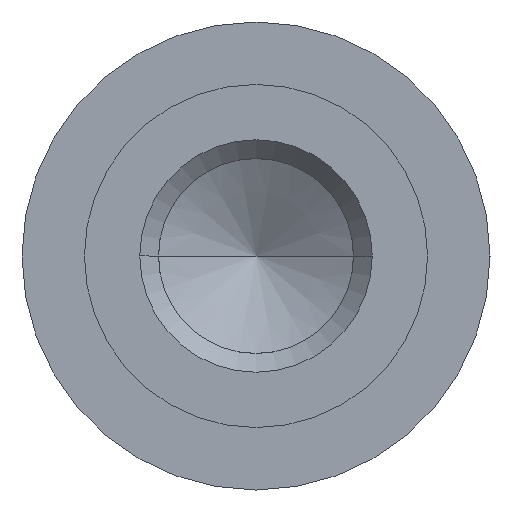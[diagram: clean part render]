
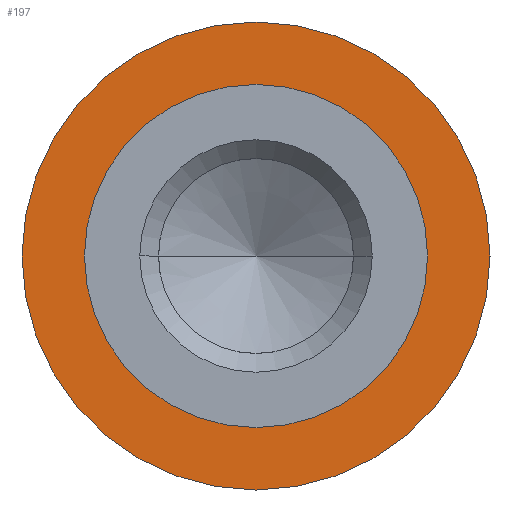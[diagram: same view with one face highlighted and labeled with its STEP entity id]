
A CAD part, left-side view. The second image highlights one B-rep face of the part: STEP entity #197.
In plain terms, the highlighted planar face has unit normal (-1, 0, 0).
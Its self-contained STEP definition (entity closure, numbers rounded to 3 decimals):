
#42 = DIRECTION ( 'NONE',  ( -1., 0., 0. ) ) ;
#127 = FACE_BOUND ( 'NONE', #260, .T. ) ;
#139 = DIRECTION ( 'NONE',  ( 0., 0., 1. ) ) ;
#151 = ORIENTED_EDGE ( 'NONE', *, *, #209, .T. ) ;
#157 = CARTESIAN_POINT ( 'NONE',  ( -3.5, 0., 2.2 ) ) ;
#195 = CARTESIAN_POINT ( 'NONE',  ( -3.5, 0., 0. ) ) ;
#197 = ADVANCED_FACE ( 'NONE', ( #127, #482 ), #248, .F. ) ;
#208 = VERTEX_POINT ( 'NONE', #320 ) ;
#209 = EDGE_CURVE ( 'NONE', #208, #691, #658, .T. ) ;
#210 = DIRECTION ( 'NONE',  ( 0., 0., 1. ) ) ;
#248 = PLANE ( 'NONE',  #442 ) ;
#255 = CARTESIAN_POINT ( 'NONE',  ( -3.5, 0., 0. ) ) ;
#260 = EDGE_LOOP ( 'NONE', ( #599, #759 ) ) ;
#268 = EDGE_CURVE ( 'NONE', #327, #427, #719, .T. ) ;
#302 = CARTESIAN_POINT ( 'NONE',  ( -3.5, 0., 3. ) ) ;
#316 = DIRECTION ( 'NONE',  ( 0., 0., 1. ) ) ;
#320 = CARTESIAN_POINT ( 'NONE',  ( -3.5, 0., -3. ) ) ;
#327 = VERTEX_POINT ( 'NONE', #157 ) ;
#388 = DIRECTION ( 'NONE',  ( 1., 0., 0. ) ) ;
#391 = AXIS2_PLACEMENT_3D ( 'NONE', #393, #496, #210 ) ;
#393 = CARTESIAN_POINT ( 'NONE',  ( -3.5, 0., 0. ) ) ;
#427 = VERTEX_POINT ( 'NONE', #662 ) ;
#438 = DIRECTION ( 'NONE',  ( -1., 0., 0. ) ) ;
#442 = AXIS2_PLACEMENT_3D ( 'NONE', #565, #388, #507 ) ;
#480 = AXIS2_PLACEMENT_3D ( 'NONE', #255, #610, #316 ) ;
#482 = FACE_OUTER_BOUND ( 'NONE', #549, .T. ) ;
#496 = DIRECTION ( 'NONE',  ( -1., 0., 0. ) ) ;
#507 = DIRECTION ( 'NONE',  ( 0., 0., -1. ) ) ;
#520 = ORIENTED_EDGE ( 'NONE', *, *, #760, .T. ) ;
#532 = AXIS2_PLACEMENT_3D ( 'NONE', #577, #42, #653 ) ;
#549 = EDGE_LOOP ( 'NONE', ( #520, #151 ) ) ;
#565 = CARTESIAN_POINT ( 'NONE',  ( -3.5, 2.2, 0. ) ) ;
#577 = CARTESIAN_POINT ( 'NONE',  ( -3.5, 0., 0. ) ) ;
#595 = EDGE_CURVE ( 'NONE', #427, #327, #778, .T. ) ;
#599 = ORIENTED_EDGE ( 'NONE', *, *, #268, .F. ) ;
#610 = DIRECTION ( 'NONE',  ( -1., 0., 0. ) ) ;
#653 = DIRECTION ( 'NONE',  ( 0., 0., 1. ) ) ;
#658 = CIRCLE ( 'NONE', #391, 3. ) ;
#662 = CARTESIAN_POINT ( 'NONE',  ( -3.5, 0., -2.2 ) ) ;
#691 = VERTEX_POINT ( 'NONE', #302 ) ;
#719 = CIRCLE ( 'NONE', #762, 2.2 ) ;
#759 = ORIENTED_EDGE ( 'NONE', *, *, #595, .F. ) ;
#760 = EDGE_CURVE ( 'NONE', #691, #208, #780, .T. ) ;
#762 = AXIS2_PLACEMENT_3D ( 'NONE', #195, #438, #139 ) ;
#778 = CIRCLE ( 'NONE', #532, 2.2 ) ;
#780 = CIRCLE ( 'NONE', #480, 3. ) ;
